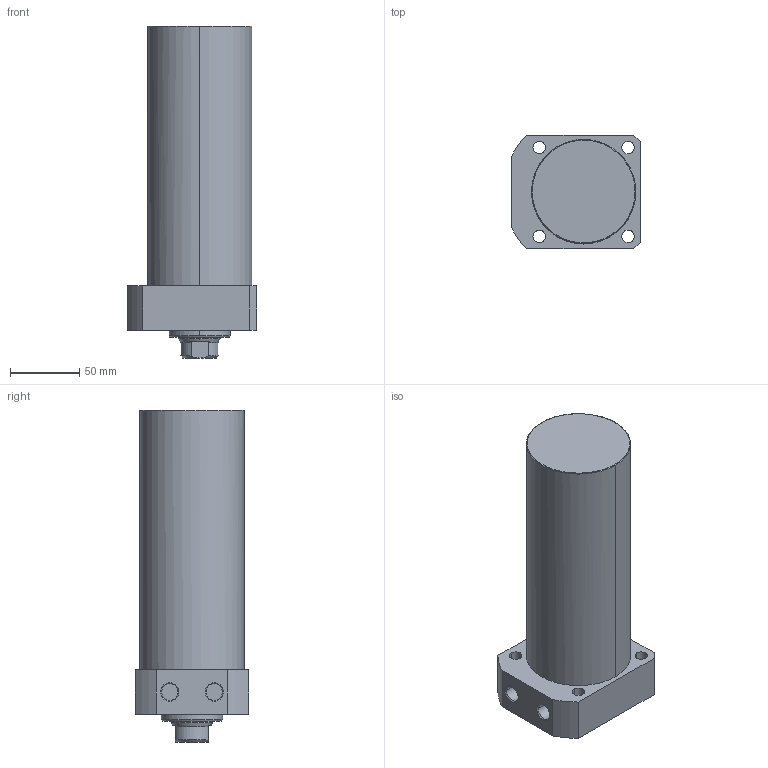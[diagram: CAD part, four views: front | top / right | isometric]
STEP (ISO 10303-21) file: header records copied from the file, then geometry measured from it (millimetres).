
FILE_DESCRIPTION((' '),'2;1');
FILE_NAME( 'TLLR-075CA-150.STEP.stp', '2025-10-24T16:35:07', (' '), ('--- Datakit www.datakit.com---'), ' Datakit CrossCadWare V2024.1 Dec 21 2023', 'Mastercam 2025', ' ');
FILE_SCHEMA(('AUTOMOTIVE_DESIGN { 1 0 10303 214 1 1 1 1 }'));
Length unit declared in the file: millimetre
Products named in the file (1): TLLR-075CA-150
Bounding box: 93 x 82 x 239 mm (x, y, z)
Volume: 1061240.9 mm3; surface area: 77722.1 mm2
Topology: 1 solids, 1 shells, 63 faces, 177 edges, 122 vertices
Faces by surface type: cylinder 28, plane 19, cone 14, torus 2
Entity records: 2168 total; most frequent: CARTESIAN_POINT 405, DIRECTION 400, ORIENTED_EDGE 350, EDGE_CURVE 175, AXIS2_PLACEMENT_3D 169, VERTEX_POINT 122, CIRCLE 105, EDGE_LOOP 79
